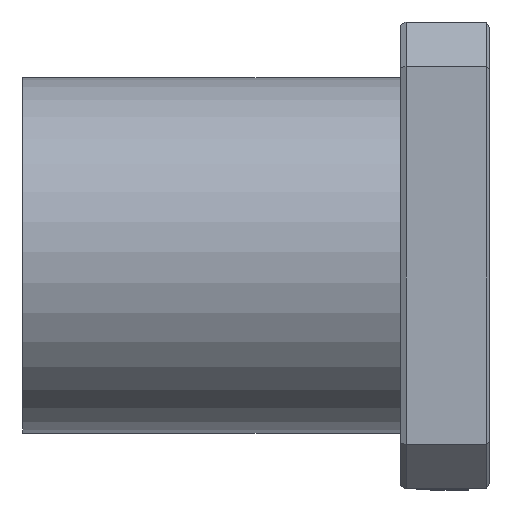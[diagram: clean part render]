
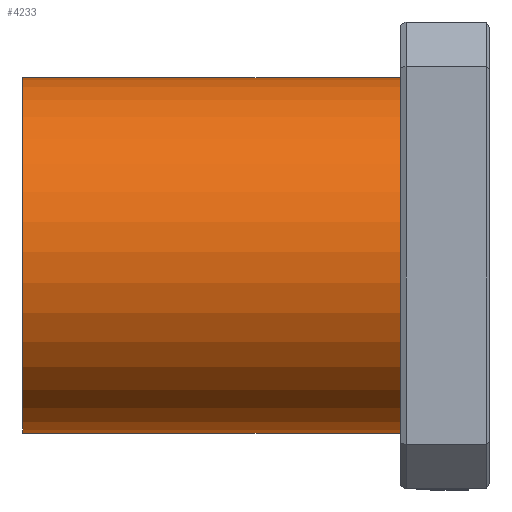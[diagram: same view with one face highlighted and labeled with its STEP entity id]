
A CAD part, left-side view. The second image highlights one B-rep face of the part: STEP entity #4233.
In plain terms, the highlighted cylindrical face has radius 16 mm (diameter 32 mm), a partial arc.
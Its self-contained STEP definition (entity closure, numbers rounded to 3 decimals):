
#36 = CARTESIAN_POINT ( 'NONE',  ( 0., 0., 16. ) ) ;
#252 = CARTESIAN_POINT ( 'NONE',  ( 0., 42., 0. ) ) ;
#292 = CIRCLE ( 'NONE', #7761, 16. ) ;
#1000 = LINE ( 'NONE', #1454, #5255 ) ;
#1454 = CARTESIAN_POINT ( 'NONE',  ( 0., 42., -16. ) ) ;
#1679 = CIRCLE ( 'NONE', #5542, 16. ) ;
#2767 = EDGE_CURVE ( 'NONE', #7544, #3319, #3237, .T. ) ;
#3022 = DIRECTION ( 'NONE',  ( 0., -1., 0. ) ) ;
#3067 = CARTESIAN_POINT ( 'NONE',  ( 0., 42., 16. ) ) ;
#3215 = DIRECTION ( 'NONE',  ( 0., 1., 0. ) ) ;
#3237 = LINE ( 'NONE', #3067, #5163 ) ;
#3319 = VERTEX_POINT ( 'NONE', #36 ) ;
#3996 = CYLINDRICAL_SURFACE ( 'NONE', #5708, 16. ) ;
#4233 = ADVANCED_FACE ( 'NONE', ( #8188 ), #3996, .T. ) ;
#4361 = EDGE_CURVE ( 'NONE', #5835, #7544, #1679, .T. ) ;
#4545 = EDGE_CURVE ( 'NONE', #5835, #5084, #1000, .T. ) ;
#4723 = DIRECTION ( 'NONE',  ( 0., 0., 1. ) ) ;
#5076 = DIRECTION ( 'NONE',  ( 0., 0., -1. ) ) ;
#5084 = VERTEX_POINT ( 'NONE', #7393 ) ;
#5156 = CARTESIAN_POINT ( 'NONE',  ( 0., 42., 0. ) ) ;
#5163 = VECTOR ( 'NONE', #3022, 1000. ) ;
#5255 = VECTOR ( 'NONE', #8075, 1000. ) ;
#5511 = ORIENTED_EDGE ( 'NONE', *, *, #2767, .F. ) ;
#5542 = AXIS2_PLACEMENT_3D ( 'NONE', #5156, #3215, #4723 ) ;
#5708 = AXIS2_PLACEMENT_3D ( 'NONE', #252, #8475, #5076 ) ;
#5835 = VERTEX_POINT ( 'NONE', #6835 ) ;
#5915 = DIRECTION ( 'NONE',  ( 0., 1., 0. ) ) ;
#6427 = ORIENTED_EDGE ( 'NONE', *, *, #6472, .T. ) ;
#6472 = EDGE_CURVE ( 'NONE', #5084, #3319, #292, .T. ) ;
#6474 = ORIENTED_EDGE ( 'NONE', *, *, #4545, .T. ) ;
#6543 = CARTESIAN_POINT ( 'NONE',  ( 0., 0., 0. ) ) ;
#6835 = CARTESIAN_POINT ( 'NONE',  ( 0., 42., -16. ) ) ;
#7004 = DIRECTION ( 'NONE',  ( 0., 0., 1. ) ) ;
#7050 = ORIENTED_EDGE ( 'NONE', *, *, #4361, .F. ) ;
#7393 = CARTESIAN_POINT ( 'NONE',  ( 0., 0., -16. ) ) ;
#7544 = VERTEX_POINT ( 'NONE', #9220 ) ;
#7761 = AXIS2_PLACEMENT_3D ( 'NONE', #6543, #5915, #7004 ) ;
#8075 = DIRECTION ( 'NONE',  ( 0., -1., 0. ) ) ;
#8188 = FACE_OUTER_BOUND ( 'NONE', #8566, .T. ) ;
#8475 = DIRECTION ( 'NONE',  ( 0., -1., 0. ) ) ;
#8566 = EDGE_LOOP ( 'NONE', ( #5511, #7050, #6474, #6427 ) ) ;
#9220 = CARTESIAN_POINT ( 'NONE',  ( 0., 42., 16. ) ) ;
